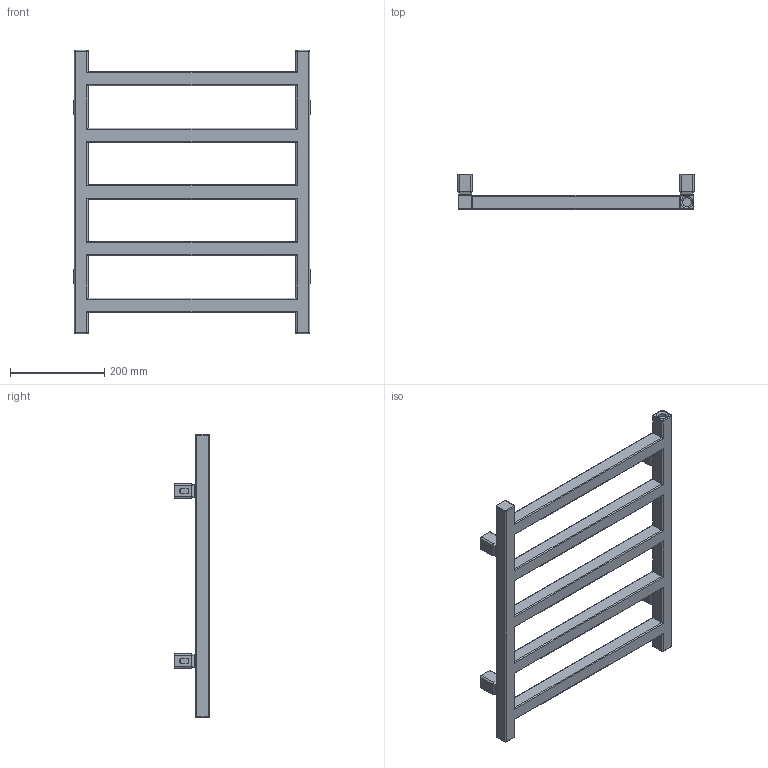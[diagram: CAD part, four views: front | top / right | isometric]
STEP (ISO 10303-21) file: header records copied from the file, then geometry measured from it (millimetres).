
FILE_DESCRIPTION((''),'2;1');
FILE_NAME('Z:\R\G\P\RGP035 - Grzejnik Simple\Work\Inventor\Marketing\AutoCad 3D\G-SI-XX-MK-XX-60-50-SX.stp','2012-07-24T13:51:37',('DawPi'),(''),'Autodesk Inventor 2012','Autodesk Inventor 2012','');
FILE_SCHEMA(('AUTOMOTIVE_DESIGN { 1 0 10303 214 1 1 1 1 }'));
Length unit declared in the file: millimetre
Products named in the file (3): G-SI-XX-MK-XX-60-50-SX; MKT42-00-A v0.2
Assembly tree (5 placements, depth 2):
  G-SI-XX-MK-XX-60-50-SX
    G-SI-XX-MK-XX-60-50-SX
    MKT42-00-A v0.2  x4
Bounding box: 503.98 x 74.5 x 600 mm (x, y, z)
Volume: 3193114.9 mm3; surface area: 424196.4 mm2
Topology: 5 solids, 5 shells, 395 faces, 959 edges, 605 vertices
Faces by surface type: cylinder 175, plane 149, bspline 60, torus 11
Full cylindrical faces by diameter (mm): 4.134 x4, 10 x4, 12 x4, 18.631 x3
Entity records: 7457 total; most frequent: CARTESIAN_POINT 2701, DIRECTION 968, ORIENTED_EDGE 950, EDGE_CURVE 475, AXIS2_PLACEMENT_3D 370, VERTEX_POINT 311, EDGE_LOOP 246, VECTOR 228
